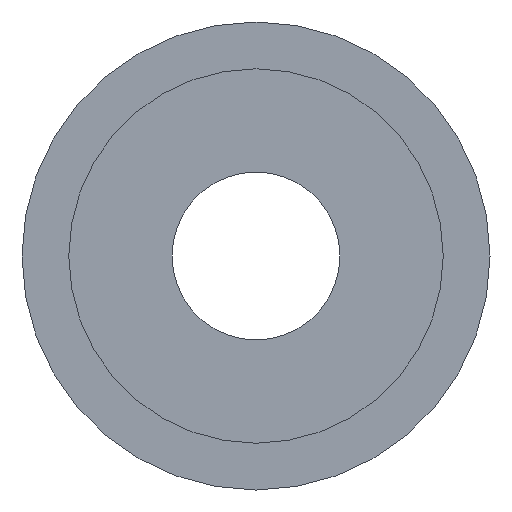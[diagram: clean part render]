
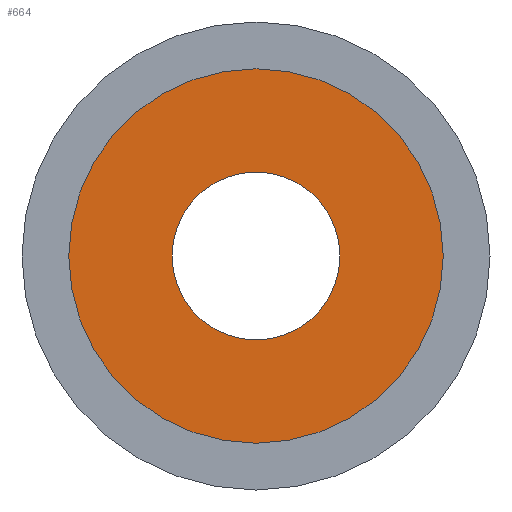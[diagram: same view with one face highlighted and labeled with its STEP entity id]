
A CAD part, left-side view. The second image highlights one B-rep face of the part: STEP entity #664.
In plain terms, the highlighted planar face has unit normal (-1, 0, 0).
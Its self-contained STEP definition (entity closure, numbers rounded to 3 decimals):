
#362=CARTESIAN_POINT('',(-412.5,0.,0.));
#363=DIRECTION('',(1.,0.,0.));
#364=DIRECTION('',(0.,1.,0.));
#365=AXIS2_PLACEMENT_3D('',#362,#363,#364);
#441=CARTESIAN_POINT('',(-412.5,0.,0.));
#442=DIRECTION('',(-1.,0.,0.));
#443=DIRECTION('',(0.,1.,0.));
#444=AXIS2_PLACEMENT_3D('',#441,#442,#443);
#446=CARTESIAN_POINT('',(-412.5,0.,0.));
#447=DIRECTION('',(1.,0.,0.));
#448=DIRECTION('',(0.,1.,0.));
#449=AXIS2_PLACEMENT_3D('',#446,#447,#448);
#460=CARTESIAN_POINT('',(-412.5,0.,0.));
#461=DIRECTION('',(-1.,0.,0.));
#462=DIRECTION('',(0.,1.,0.));
#463=AXIS2_PLACEMENT_3D('',#460,#461,#462);
#469=CARTESIAN_POINT('',(-412.5,130.,0.));
#470=CARTESIAN_POINT('',(-412.5,-130.,0.));
#471=VERTEX_POINT('',#469);
#472=VERTEX_POINT('',#470);
#473=CARTESIAN_POINT('',(-412.5,290.,0.));
#474=CARTESIAN_POINT('',(-412.5,-290.,0.));
#475=VERTEX_POINT('',#473);
#476=VERTEX_POINT('',#474);
#650=CARTESIAN_POINT('',(-412.5,0.,0.));
#651=DIRECTION('',(1.,0.,0.));
#652=DIRECTION('',(0.,-1.,0.));
#653=AXIS2_PLACEMENT_3D('',#650,#651,#652);
#654=PLANE('',#653);
#655=ORIENTED_EDGE('',*,*,#632,.F.);
#656=ORIENTED_EDGE('',*,*,#645,.T.);
#657=EDGE_LOOP('',(#655,#656));
#658=FACE_OUTER_BOUND('',#657,.F.);
#659=ORIENTED_EDGE('',*,*,#510,.F.);
#661=ORIENTED_EDGE('',*,*,#660,.T.);
#662=EDGE_LOOP('',(#659,#661));
#663=FACE_BOUND('',#662,.F.);
#664=ADVANCED_FACE('',(#658,#663),#654,.F.);
#366=CIRCLE('',#365,130.);
#445=CIRCLE('',#444,290.);
#450=CIRCLE('',#449,290.);
#464=CIRCLE('',#463,130.);
#510=EDGE_CURVE('',#471,#472,#366,.T.);
#632=EDGE_CURVE('',#475,#476,#445,.T.);
#645=EDGE_CURVE('',#475,#476,#450,.T.);
#660=EDGE_CURVE('',#471,#472,#464,.T.);
